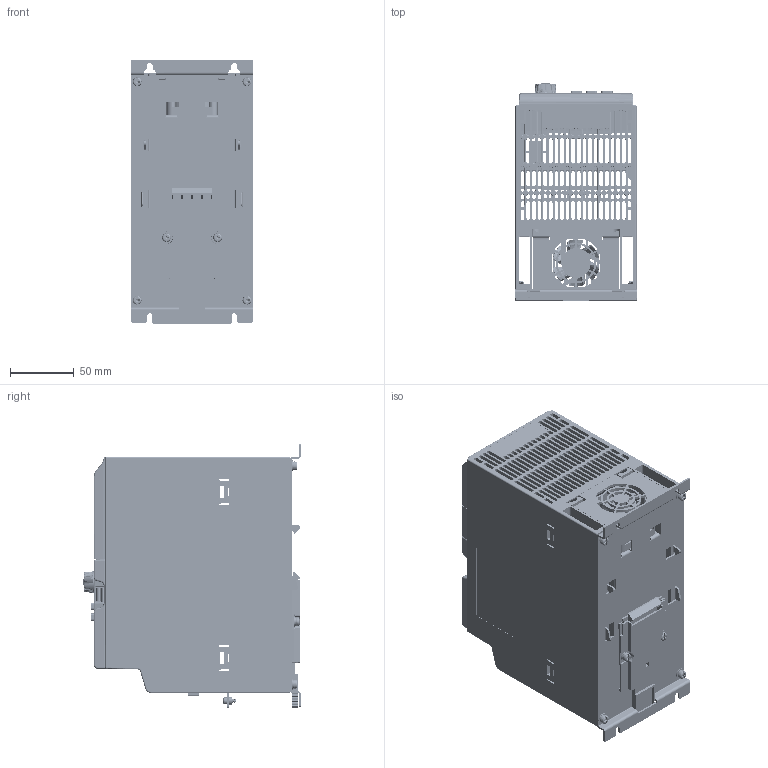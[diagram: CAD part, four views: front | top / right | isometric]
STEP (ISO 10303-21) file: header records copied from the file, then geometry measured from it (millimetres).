
FILE_DESCRIPTION((''),'2;1');
FILE_NAME('VFC5610-2K20-3P4-MNA-XX-NNNNN-N','2023-03-27T16:12:39',('ZUX1XI'),(''),'CREO PARAMETRIC BY PTC INC, 2021072','CREO PARAMETRIC BY PTC INC, 2021072','');
FILE_SCHEMA(('AUTOMOTIVE_DESIGN { 1 0 10303 214 1 1 1 1 }'));
Products named in the file (47): R912005577_1_1_1; R912005576_1_1_1; EFC5610_1K5_CASE_RE_1_1_1; MANIFOLD_SOLID_BREP_46507_1_1; MANIFOLD_SOLID_BREP_46693_1_1; MANIFOLD_SOLID_BREP_46879_1_1; MANIFOLD_SOLID_BREP_47081_1_1; MANIFOLD_SOLID_BREP_47283_1_1; MANIFOLD_SOLID_BREP_47485_1_1; MANIFOLD_SOLID_BREP_47687_1_1; C_DIBAN_1_ASM_1_1; D04G-24TH_1_1_1; MANIFOLD_SOLID_BREP_70613_1_1; MANIFOLD_SOLID_BREP_70870_1_1; MANIFOLD_SOLID_BREP_71127_1_1; MANIFOLD_SOLID_BREP_71384_1_1; MANIFOLD_SOLID_BREP_71641_1_1; MANIFOLD_SOLID_BREP_71898_1_1; MANIFOLD_SOLID_BREP_72155_1_1; MANIFOLD_SOLID_BREP_72412_1_1; MANIFOLD_SOLID_BREP_72669_1_1; GND_1_ASM_1_1; 01_DISPLAYCASE_1_1_1; LED_1_1_1; DISPLAY_PCB_ASM_1_ASM_1_1; BACK_CASE1_1_1_1; R911330333_FOLIE_1_1_1; BUUTTON_1_1_1; XUAN_NIU_1_1_1; 02-DISPLAY-CASE_ASM_1_ASM_1_1; PRT0010_1_1_1; PRT0031_1_1_1; ASM0003_ASM_1_ASM_1_1; LDZHJ_SZCYZT_M3X8_1_1_1; LDZHJ_SZCYZT_M4X10_1_1_1; 00_C_ASM_1_ASM_1_1; C_ASM_1_1; PL_EFC5610_IOCAE_CONVER_1_1; CPU_CONNECTOR-14P_1_1; 548190519_1_1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
Assembly tree (52 placements, depth 8):
  VFC5610-2K20-3P4-MNA-XX-NNNNN-N
    VFC5610-2K20-3P4-MNA-XX-NNNNN_1
      XFCX610_3PH_1_5_2_2KW_C_HOUSING
        C_ASM_1_1
          00_C_ASM_1_ASM_1_1
            R912005577_1_1_1
            R912005576_1_1_1
            EFC5610_1K5_CASE_RE_1_1_1
            C_DIBAN_1_ASM_1_1
              MANIFOLD_SOLID_BREP_46507_1_1
              MANIFOLD_SOLID_BREP_46693_1_1
              MANIFOLD_SOLID_BREP_46879_1_1
              MANIFOLD_SOLID_BREP_47081_1_1
              MANIFOLD_SOLID_BREP_47283_1_1
              MANIFOLD_SOLID_BREP_47485_1_1
              MANIFOLD_SOLID_BREP_47687_1_1
            D04G-24TH_1_1_1
            GND_1_ASM_1_1
              MANIFOLD_SOLID_BREP_70613_1_1
              MANIFOLD_SOLID_BREP_70870_1_1
              MANIFOLD_SOLID_BREP_71127_1_1
              MANIFOLD_SOLID_BREP_71384_1_1
              MANIFOLD_SOLID_BREP_71641_1_1
              MANIFOLD_SOLID_BREP_71898_1_1
              MANIFOLD_SOLID_BREP_72155_1_1
              MANIFOLD_SOLID_BREP_72412_1_1
              MANIFOLD_SOLID_BREP_72669_1_1
            02-DISPLAY-CASE_ASM_1_ASM_1_1
              01_DISPLAYCASE_1_1_1
              DISPLAY_PCB_ASM_1_ASM_1_1
                LED_1_1_1
              BACK_CASE1_1_1_1
              R911330333_FOLIE_1_1_1
              BUUTTON_1_1_1
              XUAN_NIU_1_1_1
            ASM0003_ASM_1_ASM_1_1
              PRT0010_1_1_1
              PRT0031_1_1_1
            LDZHJ_SZCYZT_M3X8_1_1_1  x2
            LDZHJ_SZCYZT_M4X10_1_1_1  x6
        01-IOCASE_1_1
          PL_EFC5610_IOCAE_CONVER_1_1
          LK_YCP06_1_1
            CPU_CONNECTOR-14P_1_1
            548190519_1_1
            1155590000_1_1
          01-IOBACK_CASE_1_1
Bounding box: 95 x 170.05 x 207.5 mm (x, y, z)
Volume: 525035.6 mm3; surface area: 508754.7 mm2
Topology: 41 solids, 47 shells, 8142 faces, 22468 edges, 14437 vertices
Faces by surface type: plane 4380, cylinder 2288, torus 572, bspline 474, cone 217, sphere 139, extrusion 72
Entity records: 360160 total; most frequent: CARTESIAN_POINT 81856, ORIENTED_EDGE 41876, DIRECTION 38738, PRESENTATION_STYLE_ASSIGNMENT 22953, STYLED_ITEM 21023, CURVE_STYLE 20988, EDGE_CURVE 20938, VECTOR 13556
